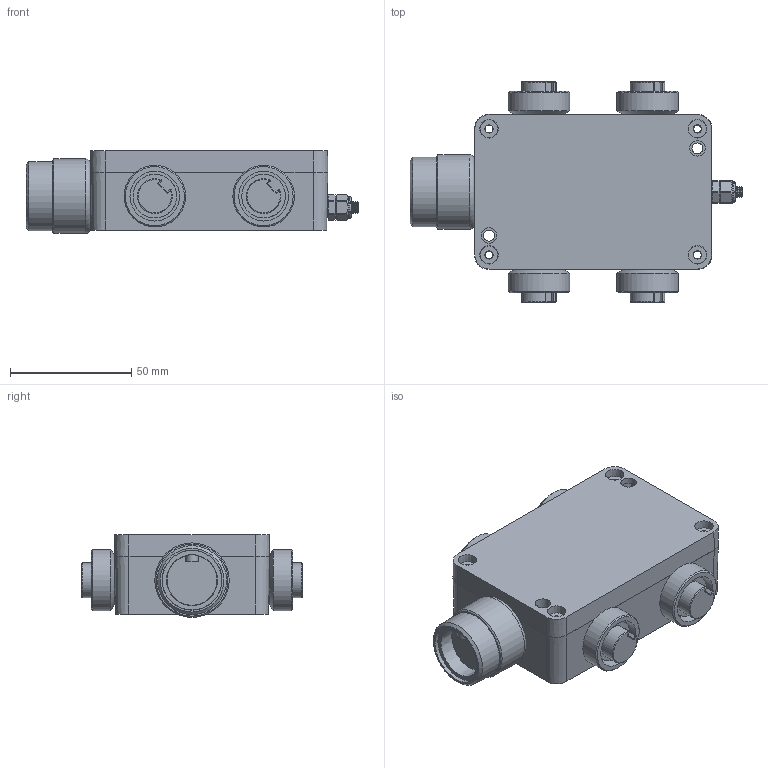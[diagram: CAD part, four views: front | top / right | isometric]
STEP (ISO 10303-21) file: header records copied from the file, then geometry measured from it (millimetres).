
FILE_DESCRIPTION (( 'STEP AP203' ), '1' );
FILE_NAME ('P-4_RKF-RSF.step', '2020-10-08T23:45:23', ( '' ), ( '' ), 'SwSTEP 2.0', 'SolidWorks 2019', '' );
FILE_SCHEMA (( 'CONFIG_CONTROL_DESIGN' ));
Length unit declared in the file: millimetre
Products named in the file (1): P-4_RKF-RSF
Bounding box: 137 x 91 x 34.15 mm (x, y, z)
Volume: 105064 mm3; surface area: 62403.3 mm2
Topology: 1 solids, 7 shells, 532 faces, 1376 edges, 887 vertices
Faces by surface type: plane 238, cylinder 161, cone 118, sphere 8, torus 7
Full cylindrical faces by diameter (mm): 3.2 x2, 3.3 x2, 3.4 x4, 3.861 x2, 4.13 x3, 4.5 x4, 5 x2, 6.4 x2, 6.502 x1, 7 x4, 8 x2, 8.6 x2, 8.89 x1, 18 x4, 20 x4, 20.5 x4, 22.5 x4, 24.55 x1, 24.7 x1, 25.4 x4, 26 x1, 28.5 x1, 30.7 x1
Entity records: 14917 total; most frequent: CARTESIAN_POINT 2745, DIRECTION 2626, ORIENTED_EDGE 2276, EDGE_CURVE 1138, AXIS2_PLACEMENT_3D 1045, VERTEX_POINT 809, EDGE_LOOP 757, FACE_OUTER_BOUND 591
